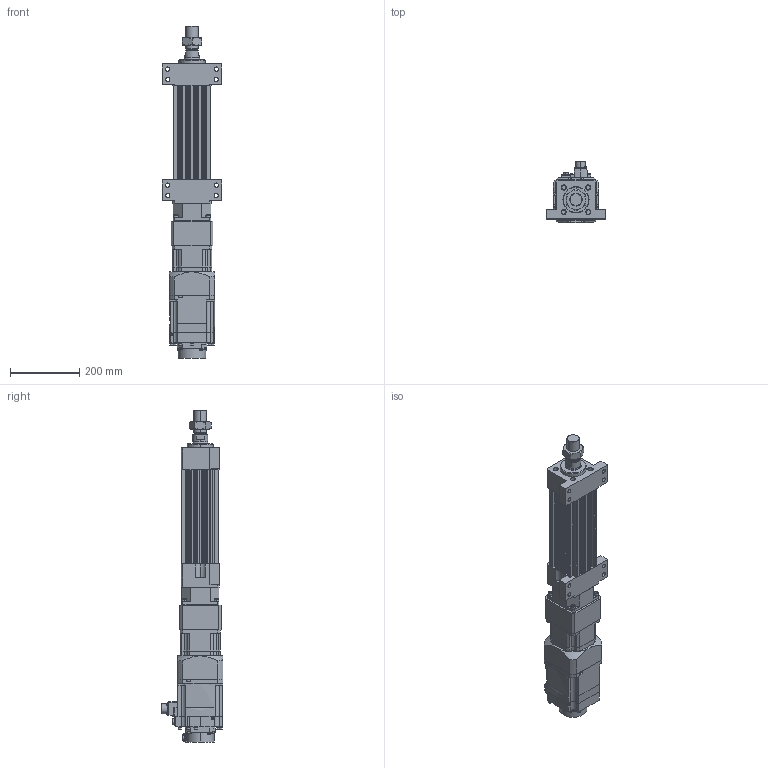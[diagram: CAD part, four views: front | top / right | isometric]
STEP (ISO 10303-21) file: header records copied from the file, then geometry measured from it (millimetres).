
FILE_DESCRIPTION (( 'STEP AP203' ), '1' );
FILE_NAME ('HES110NS(HS)-S100-W015G00-M-FFB.STEP', '2026-06-10T05:56:08', ( 'tms' ), ( '' ), 'SwSTEP 2.0', 'SolidWorks 2013', '' );
FILE_SCHEMA (( 'CONFIG_CONTROL_DESIGN' ));
Length unit declared in the file: millimetre
Products named in the file (8): HES110-FFB-100; HG-SR152B; HES110-S-G120; HES110-M-ROD-100; AB1152; HES110NS(HS)-S100-W015G00-M-FFB; M36X1.5P; AB1151
Assembly tree (7 placements, depth 2):
  HES110NS(HS)-S100-W015G00-M-FFB
    HES110-FFB-100
    HES110-M-ROD-100
    M36X1.5P
    HES110-S-G120
    AB1151
    AB1152
    HG-SR152B
Bounding box: 170 x 177.49 x 956 mm (x, y, z)
Volume: 6688760.5 mm3; surface area: 827955.1 mm2
Topology: 5 solids, 12 shells, 1199 faces, 3044 edges, 1985 vertices
Faces by surface type: plane 561, cylinder 554, cone 70, bspline 10, torus 4
Entity records: 38159 total; most frequent: CARTESIAN_POINT 7343, DIRECTION 6579, ORIENTED_EDGE 6060, EDGE_CURVE 3040, AXIS2_PLACEMENT_3D 2434, VERTEX_POINT 1985, LINE 1711, VECTOR 1711
